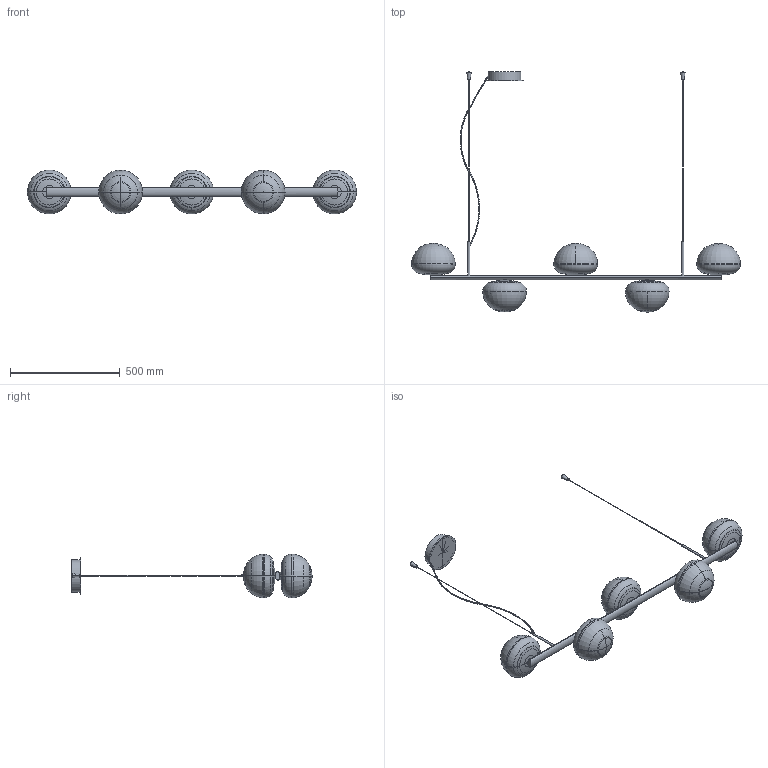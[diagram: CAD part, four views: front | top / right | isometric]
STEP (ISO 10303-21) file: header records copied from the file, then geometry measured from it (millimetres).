
FILE_DESCRIPTION (( 'STEP AP203' ), '1' );
FILE_NAME ('DEW01_DEW_sospensione.STEP', '2025-04-29T07:39:25', ( '' ), ( '' ), 'SwSTEP 2.0', 'SolidWorks 2022', '' );
FILE_SCHEMA (( 'CONFIG_CONTROL_DESIGN' ));
Length unit declared in the file: millimetre
Products named in the file (1): DEW01_DEW_sospensione
Bounding box: 1500.23 x 1094.9 x 199.52 mm (x, y, z)
Volume: 2956994.2 mm3; surface area: 1313480.5 mm2
Topology: 29 solids, 29 shells, 393 faces, 832 edges, 463 vertices
Faces by surface type: torus 203, cylinder 88, plane 49, cone 45, bspline 8
Entity records: 12039 total; most frequent: CARTESIAN_POINT 3442, DIRECTION 2117, ORIENTED_EDGE 1582, AXIS2_PLACEMENT_3D 993, EDGE_CURVE 791, CIRCLE 607, VERTEX_POINT 463, EDGE_LOOP 410
